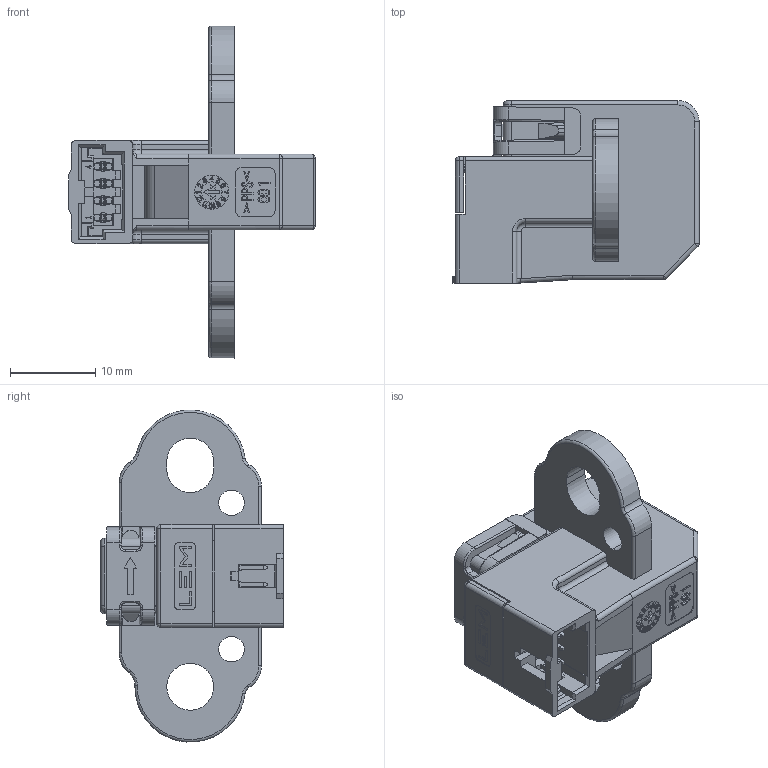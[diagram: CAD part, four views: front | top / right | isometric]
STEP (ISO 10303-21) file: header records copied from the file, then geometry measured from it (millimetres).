
FILE_DESCRIPTION(('Creo Elements/Direct Modeling STEP Export'),'2;1');
FILE_NAME('BBOX_HST STD_2022.06.28.stp','2022-06-28T14:38:30',(''),(''),'Creo Elements/Direct Modeling STEP processor for AP214 (Solid Model)','Creo Elements/Direct Modeling 20.1 10-Mar-2018 (C) Parametric Technology GmbH','');
FILE_SCHEMA(('AUTOMOTIVE_DESIGN { 1 0 10303 214 1 1 1 1 }'));
Length unit declared in the file: millimetre
Products named in the file (2): BBOX_HST_2022_06_28; BBOX_HST_STD
Assembly tree (1 placements, depth 2):
  BBOX_HST_STD
    BBOX_HST_2022_06_28
Bounding box: 28.91 x 21.43 x 38.97 mm (x, y, z)
Volume: 5604.3 mm3; surface area: 4544.2 mm2
Topology: 1 solids, 9 shells, 1192 faces, 3244 edges, 2115 vertices
Faces by surface type: plane 893, cylinder 227, torus 24, bspline 22, cone 10, extrusion 10, sphere 6
Entity records: 48818 total; most frequent: CARTESIAN_POINT 9110, ORIENTED_EDGE 6476, DIRECTION 5821, EDGE_CURVE 3238, VECTOR 2591, LINE 2581, VERTEX_POINT 2115, AXIS2_PLACEMENT_3D 1615
